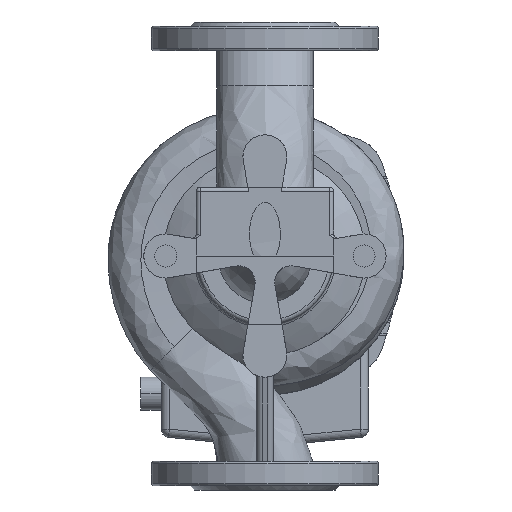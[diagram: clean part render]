
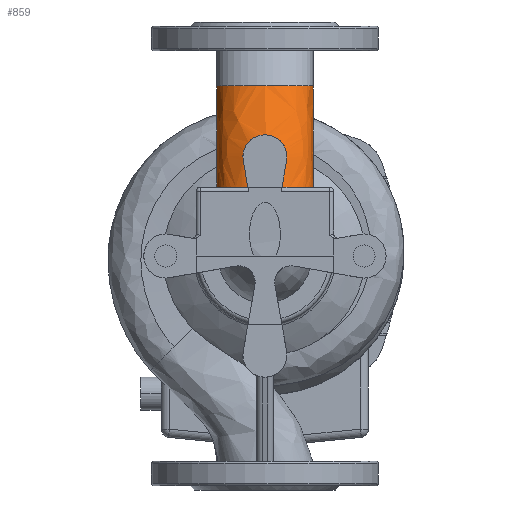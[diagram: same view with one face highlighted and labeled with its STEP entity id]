
A CAD part, front view. The second image highlights one B-rep face of the part: STEP entity #859.
In plain terms, the highlighted free-form (B-spline) face has degree [3, 3] with [7, 4] control points.
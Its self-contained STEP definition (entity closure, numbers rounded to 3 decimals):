
#449=(
BOUNDED_SURFACE()
B_SPLINE_SURFACE(3,3,((#22945,#22946,#22947,#22948),(#22949,#22950,#22951,
#22952),(#22953,#22954,#22955,#22956),(#22957,#22958,#22959,#22960),(#22961,
#22962,#22963,#22964),(#22965,#22966,#22967,#22968),(#22969,#22970,#22971,
#22972)),.UNSPECIFIED.,.T.,.F.,.F.)
B_SPLINE_SURFACE_WITH_KNOTS((1,3,3,3,1),(4,4),(-0.5,0.,0.5,1.,1.5),(0.,
1.),.UNSPECIFIED.)
GEOMETRIC_REPRESENTATION_ITEM()
RATIONAL_B_SPLINE_SURFACE(((1.,0.949,0.949,1.),
(0.333,0.316,0.316,0.333),
(0.333,0.316,0.316,0.333),
(1.,0.949,0.949,1.),(0.333,0.316,
0.316,0.333),(0.333,0.316,
0.316,0.333),(1.,0.949,0.949,
1.)))
REPRESENTATION_ITEM('')
SURFACE()
);
#480=(
BOUNDED_CURVE()
B_SPLINE_CURVE(3,(#22883,#22884,#22885,#22886),.UNSPECIFIED.,.F.,.F.)
B_SPLINE_CURVE_WITH_KNOTS((4,4),(0.,1.),.UNSPECIFIED.)
CURVE()
GEOMETRIC_REPRESENTATION_ITEM()
RATIONAL_B_SPLINE_CURVE((0.962,0.964,0.977,
1.))
REPRESENTATION_ITEM('')
);
#481=(
BOUNDED_CURVE()
B_SPLINE_CURVE(3,(#22890,#22891,#22892,#22893),.UNSPECIFIED.,.F.,.F.)
B_SPLINE_CURVE_WITH_KNOTS((4,4),(0.,1.),.UNSPECIFIED.)
CURVE()
GEOMETRIC_REPRESENTATION_ITEM()
RATIONAL_B_SPLINE_CURVE((0.962,0.964,0.977,
1.))
REPRESENTATION_ITEM('')
);
#859=ADVANCED_FACE('',(#2212),#449,.F.);
#2212=FACE_OUTER_BOUND('',#3026,.T.);
#3026=EDGE_LOOP('',(#6649,#6650,#6651,#6652,#6653,#6654,#6655,#6656,#6657,
#6658));
#4063=B_SPLINE_CURVE_WITH_KNOTS('',3,(#22897,#22898,#22899,#22900,#22901,
#22902,#22903,#22904),.UNSPECIFIED.,.F.,.F.,(4,2,2,4),(0.,0.5,0.75,1.),
 .UNSPECIFIED.);
#4064=B_SPLINE_CURVE_WITH_KNOTS('',3,(#22906,#22907,#22908,#22909),
 .UNSPECIFIED.,.F.,.F.,(4,4),(0.,1.),.UNSPECIFIED.);
#4065=B_SPLINE_CURVE_WITH_KNOTS('',3,(#22911,#22912,#22913,#22914,#22915,
#22916,#22917,#22918,#22919,#22920,#22921,#22922,#22923,#22924,#22925,#22926,
#22927,#22928),.UNSPECIFIED.,.F.,.F.,(4,2,2,2,2,2,2,2,4),(0.,0.125,0.25,
0.375,0.5,0.625,0.75,0.875,1.),.UNSPECIFIED.);
#4066=B_SPLINE_CURVE_WITH_KNOTS('',3,(#22930,#22931,#22932,#22933),
 .UNSPECIFIED.,.F.,.F.,(4,4),(0.,1.),.UNSPECIFIED.);
#4067=B_SPLINE_CURVE_WITH_KNOTS('',3,(#22935,#22936,#22937,#22938,#22939,
#22940,#22941,#22942,#22943,#22944),.UNSPECIFIED.,.F.,.F.,(4,2,2,2,4),(0.,
0.25,0.5,0.75,1.),.UNSPECIFIED.);
#6649=ORIENTED_EDGE('',*,*,#12814,.T.);
#6650=ORIENTED_EDGE('',*,*,#12815,.T.);
#6651=ORIENTED_EDGE('',*,*,#12816,.T.);
#6652=ORIENTED_EDGE('',*,*,#12817,.F.);
#6653=ORIENTED_EDGE('',*,*,#12818,.F.);
#6654=ORIENTED_EDGE('',*,*,#12819,.T.);
#6655=ORIENTED_EDGE('',*,*,#12820,.T.);
#6656=ORIENTED_EDGE('',*,*,#12821,.T.);
#6657=ORIENTED_EDGE('',*,*,#12822,.T.);
#6658=ORIENTED_EDGE('',*,*,#12823,.T.);
#11283=VERTEX_POINT('',#22881);
#11284=VERTEX_POINT('',#22882);
#11285=VERTEX_POINT('',#22887);
#11286=VERTEX_POINT('',#22889);
#11287=VERTEX_POINT('',#22894);
#11288=VERTEX_POINT('',#22896);
#11289=VERTEX_POINT('',#22905);
#11290=VERTEX_POINT('',#22910);
#11291=VERTEX_POINT('',#22929);
#11292=VERTEX_POINT('',#22934);
#12814=EDGE_CURVE('',#11283,#11284,#15054,.T.);
#12815=EDGE_CURVE('',#11284,#11285,#480,.T.);
#12816=EDGE_CURVE('',#11285,#11286,#15055,.T.);
#12817=EDGE_CURVE('',#11287,#11286,#481,.T.);
#12818=EDGE_CURVE('',#11288,#11287,#15056,.T.);
#12819=EDGE_CURVE('',#11288,#11289,#4063,.T.);
#12820=EDGE_CURVE('',#11289,#11290,#4064,.T.);
#12821=EDGE_CURVE('',#11290,#11291,#4065,.T.);
#12822=EDGE_CURVE('',#11291,#11292,#4066,.T.);
#12823=EDGE_CURVE('',#11292,#11283,#4067,.T.);
#15054=CIRCLE('',#15973,152.095);
#15055=CIRCLE('',#15974,35.);
#15056=CIRCLE('',#15975,152.095);
#15973=AXIS2_PLACEMENT_3D('',#22880,#17881,#17882);
#15974=AXIS2_PLACEMENT_3D('',#22888,#17883,#17884);
#15975=AXIS2_PLACEMENT_3D('',#22895,#17885,#17886);
#17881=DIRECTION('',(-1.,0.,0.));
#17882=DIRECTION('',(0.,0.,1.));
#17883=DIRECTION('',(0.,0.,-1.));
#17884=DIRECTION('',(-1.,0.,0.));
#17885=DIRECTION('',(-1.,0.,0.));
#17886=DIRECTION('',(0.,0.,1.));
#22880=CARTESIAN_POINT('',(-21.379,8.908,5.486));
#22881=CARTESIAN_POINT('',(-21.379,-139.338,39.486));
#22882=CARTESIAN_POINT('',(-21.379,-129.526,68.486));
#22883=CARTESIAN_POINT('',(-21.379,-129.526,68.486));
#22884=CARTESIAN_POINT('',(-21.379,-121.912,85.217));
#22885=CARTESIAN_POINT('',(-21.379,-111.47,100.203));
#22886=CARTESIAN_POINT('',(-21.379,-98.64,113.034));
#22887=CARTESIAN_POINT('',(-21.379,-98.64,113.034));
#22888=CARTESIAN_POINT('',(-56.379,-98.64,113.034));
#22889=CARTESIAN_POINT('',(-91.379,-98.64,113.034));
#22890=CARTESIAN_POINT('',(-91.379,-129.526,68.486));
#22891=CARTESIAN_POINT('',(-91.379,-121.912,85.217));
#22892=CARTESIAN_POINT('',(-91.379,-111.47,100.203));
#22893=CARTESIAN_POINT('',(-91.379,-98.64,113.034));
#22894=CARTESIAN_POINT('',(-91.379,-129.526,68.486));
#22895=CARTESIAN_POINT('',(-91.379,8.908,5.486));
#22896=CARTESIAN_POINT('',(-91.379,-139.338,39.486));
#22897=CARTESIAN_POINT('',(-91.379,-139.338,39.486));
#22898=CARTESIAN_POINT('',(-91.379,-145.446,39.486));
#22899=CARTESIAN_POINT('',(-88.332,-151.179,39.486));
#22900=CARTESIAN_POINT('',(-82.033,-157.607,39.486));
#22901=CARTESIAN_POINT('',(-79.596,-159.46,39.486));
#22902=CARTESIAN_POINT('',(-74.402,-162.488,39.486));
#22903=CARTESIAN_POINT('',(-71.647,-163.675,39.486));
#22904=CARTESIAN_POINT('',(-68.746,-164.562,39.486));
#22905=CARTESIAN_POINT('',(-68.746,-164.562,39.486));
#22906=CARTESIAN_POINT('',(-68.746,-164.562,39.486));
#22907=CARTESIAN_POINT('',(-69.899,-162.929,46.022));
#22908=CARTESIAN_POINT('',(-71.029,-160.882,52.429));
#22909=CARTESIAN_POINT('',(-72.136,-158.422,58.708));
#22910=CARTESIAN_POINT('',(-72.136,-158.422,58.708));
#22911=CARTESIAN_POINT('',(-72.136,-158.422,58.708));
#22912=CARTESIAN_POINT('',(-72.522,-157.563,60.9));
#22913=CARTESIAN_POINT('',(-72.452,-156.817,63.187));
#22914=CARTESIAN_POINT('',(-71.33,-155.673,67.626));
#22915=CARTESIAN_POINT('',(-70.263,-155.277,69.775));
#22916=CARTESIAN_POINT('',(-67.307,-154.772,73.405));
#22917=CARTESIAN_POINT('',(-65.405,-154.651,74.909));
#22918=CARTESIAN_POINT('',(-61.121,-154.517,76.951));
#22919=CARTESIAN_POINT('',(-58.755,-154.5,77.485));
#22920=CARTESIAN_POINT('',(-54.021,-154.5,77.488));
#22921=CARTESIAN_POINT('',(-51.652,-154.517,76.952));
#22922=CARTESIAN_POINT('',(-47.398,-154.649,74.936));
#22923=CARTESIAN_POINT('',(-45.488,-154.768,73.442));
#22924=CARTESIAN_POINT('',(-42.504,-155.273,69.795));
#22925=CARTESIAN_POINT('',(-41.436,-155.667,67.65));
#22926=CARTESIAN_POINT('',(-40.304,-156.815,63.191));
#22927=CARTESIAN_POINT('',(-40.235,-157.563,60.901));
#22928=CARTESIAN_POINT('',(-40.622,-158.422,58.708));
#22929=CARTESIAN_POINT('',(-40.622,-158.422,58.708));
#22930=CARTESIAN_POINT('',(-40.622,-158.422,58.708));
#22931=CARTESIAN_POINT('',(-41.729,-160.882,52.429));
#22932=CARTESIAN_POINT('',(-42.859,-162.929,46.022));
#22933=CARTESIAN_POINT('',(-44.011,-164.562,39.486));
#22934=CARTESIAN_POINT('',(-44.011,-164.562,39.486));
#22935=CARTESIAN_POINT('',(-44.011,-164.562,39.486));
#22936=CARTESIAN_POINT('',(-41.11,-163.675,39.486));
#22937=CARTESIAN_POINT('',(-38.36,-162.489,39.486));
#22938=CARTESIAN_POINT('',(-33.183,-159.474,39.486));
#22939=CARTESIAN_POINT('',(-30.736,-157.617,39.486));
#22940=CARTESIAN_POINT('',(-26.531,-153.33,39.486));
#22941=CARTESIAN_POINT('',(-24.714,-150.837,39.486));
#22942=CARTESIAN_POINT('',(-22.148,-145.395,39.486));
#22943=CARTESIAN_POINT('',(-21.379,-142.393,39.486));
#22944=CARTESIAN_POINT('',(-21.379,-139.338,39.486));
#22945=CARTESIAN_POINT('',(-91.379,-143.187,5.486));
#22946=CARTESIAN_POINT('',(-91.379,-143.187,46.364));
#22947=CARTESIAN_POINT('',(-91.379,-127.544,84.129));
#22948=CARTESIAN_POINT('',(-91.379,-98.64,113.034));
#22949=CARTESIAN_POINT('',(-91.379,-93.69,54.984));
#22950=CARTESIAN_POINT('',(-91.379,-80.387,82.558));
#22951=CARTESIAN_POINT('',(-91.379,-57.544,102.943));
#22952=CARTESIAN_POINT('',(-91.379,-28.64,113.034));
#22953=CARTESIAN_POINT('',(-21.379,-93.69,54.984));
#22954=CARTESIAN_POINT('',(-21.379,-80.387,82.558));
#22955=CARTESIAN_POINT('',(-21.379,-57.544,102.943));
#22956=CARTESIAN_POINT('',(-21.379,-28.64,113.034));
#22957=CARTESIAN_POINT('',(-21.379,-143.187,5.486));
#22958=CARTESIAN_POINT('',(-21.379,-143.187,46.364));
#22959=CARTESIAN_POINT('',(-21.379,-127.544,84.129));
#22960=CARTESIAN_POINT('',(-21.379,-98.64,113.034));
#22961=CARTESIAN_POINT('',(-21.379,-192.685,-44.011));
#22962=CARTESIAN_POINT('',(-21.379,-205.988,10.169));
#22963=CARTESIAN_POINT('',(-21.379,-197.544,65.316));
#22964=CARTESIAN_POINT('',(-21.379,-168.64,113.034));
#22965=CARTESIAN_POINT('',(-91.379,-192.685,-44.011));
#22966=CARTESIAN_POINT('',(-91.379,-205.988,10.169));
#22967=CARTESIAN_POINT('',(-91.379,-197.544,65.316));
#22968=CARTESIAN_POINT('',(-91.379,-168.64,113.034));
#22969=CARTESIAN_POINT('',(-91.379,-143.187,5.486));
#22970=CARTESIAN_POINT('',(-91.379,-143.187,46.364));
#22971=CARTESIAN_POINT('',(-91.379,-127.544,84.129));
#22972=CARTESIAN_POINT('',(-91.379,-98.64,113.034));
